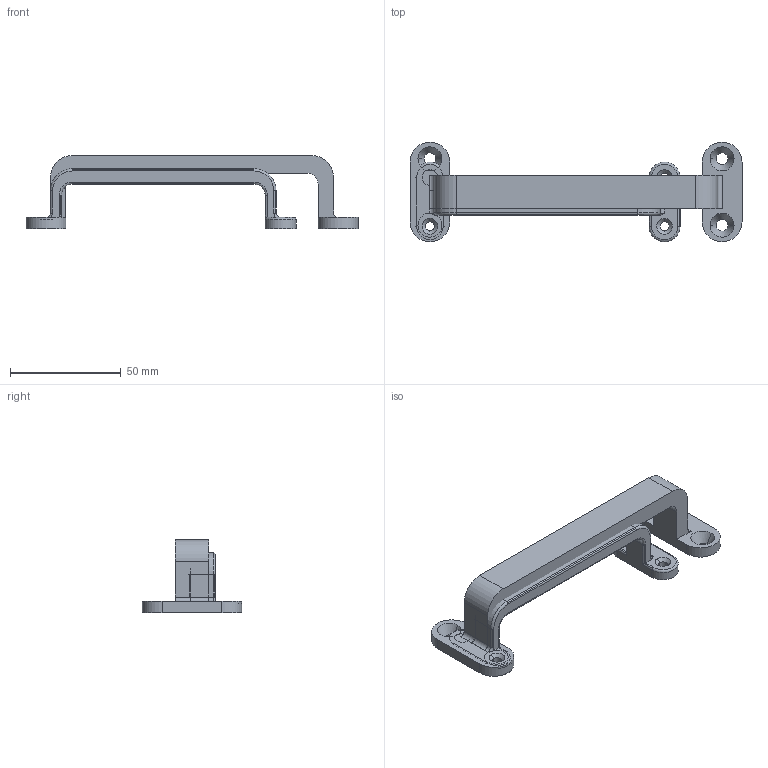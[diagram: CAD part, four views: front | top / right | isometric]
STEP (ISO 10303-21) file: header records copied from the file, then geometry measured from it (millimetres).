
FILE_DESCRIPTION((''),'2;1');
FILE_NAME('6410.01.stp','2023-10-09T16:24:23',(''),(''),'Mechanical Desktop 2006','Mechanical Desktop 2006',', , ');
FILE_SCHEMA(('CONFIG_CONTROL_DESIGN'));
Length unit declared in the file: millimetre
Products named in the file (2): Product; *U22
Assembly tree (1 placements, depth 2):
  Product
    *U22
Bounding box: 150 x 45 x 33 mm (x, y, z)
Volume: 39581.5 mm3; surface area: 18525.5 mm2
Topology: 2 solids, 2 shells, 124 faces, 316 edges, 196 vertices
Faces by surface type: cylinder 54, plane 28, bspline 18, torus 16, cone 8
Entity records: 4331 total; most frequent: CARTESIAN_POINT 1140, DIRECTION 688, ORIENTED_EDGE 632, EDGE_CURVE 316, AXIS2_PLACEMENT_3D 268, VERTEX_POINT 196, VECTOR 152, LINE 152
